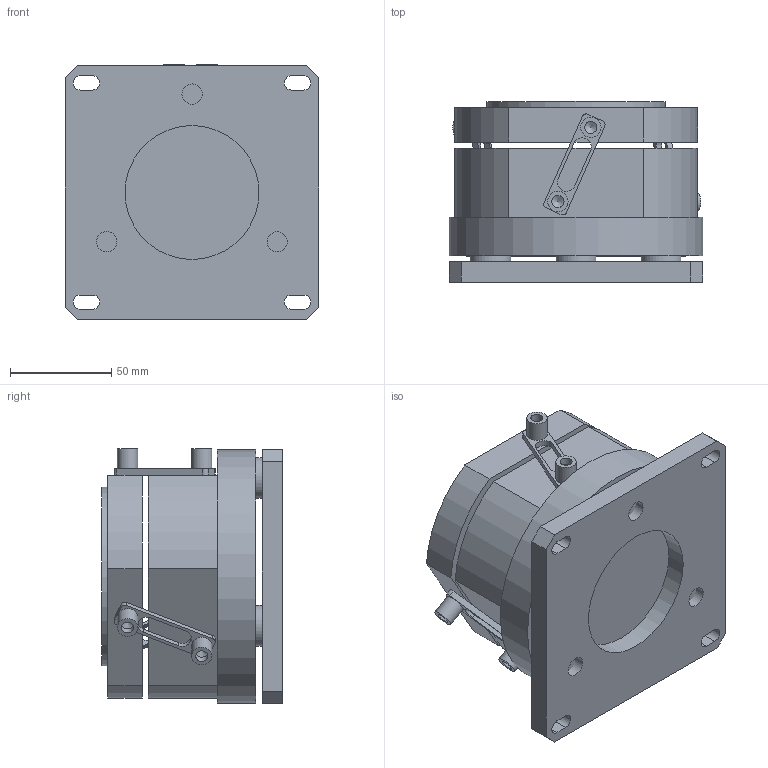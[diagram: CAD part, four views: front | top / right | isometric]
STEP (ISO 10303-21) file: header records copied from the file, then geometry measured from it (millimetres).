
FILE_DESCRIPTION(/* description */ (''),/* implementation_level */ '2;1');
FILE_NAME(/* name */ 'JMA120.stp',/* time_stamp */ '2022-04-19T11:18:19+08:00',/* author */ (''),/* organization */ (''),/* preprocessor_version */ 'ST-DEVELOPER v18.102',/* originating_system */ 'SIEMENS PLM Software NX 2019',/* authorisation */ '');
FILE_SCHEMA (('AUTOMOTIVE_DESIGN { 1 0 10303 214 3 1 1 1 }'));
Length unit declared in the file: millimetre
Products named in the file (1): JMA120_stp.prt_stp_objects
Bounding box: 125 x 89.01 x 125.5 mm (x, y, z)
Volume: 919157.4 mm3; surface area: 135247.4 mm2
Topology: 16 solids, 16 shells, 140 faces, 313 edges, 207 vertices
Faces by surface type: plane 74, cylinder 60, cone 6
Full cylindrical faces by diameter (mm): 6 x6, 6.8 x1, 10 x15, 20 x3, 66 x1, 88 x1, 125 x1
Entity records: 3886 total; most frequent: DIRECTION 674, CARTESIAN_POINT 619, ORIENTED_EDGE 544, EDGE_CURVE 272, AXIS2_PLACEMENT_3D 261, EDGE_LOOP 210, VERTEX_POINT 206, LINE 152
